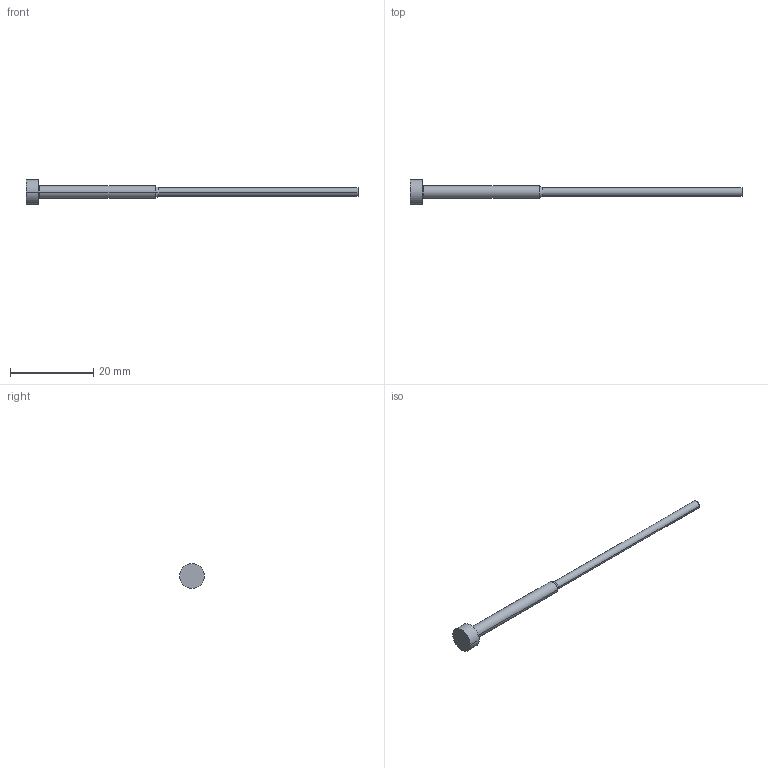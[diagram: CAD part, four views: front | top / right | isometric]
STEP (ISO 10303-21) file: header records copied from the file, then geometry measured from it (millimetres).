
FILE_DESCRIPTION (( 'STEP AP214' ), '1' );
FILE_NAME ('C-2,00x80.STEP', '2020-06-03T16:08:46', ( 'August' ), ( '' ), 'SwSTEP 2.0', 'SolidWorks 2018', '' );
FILE_SCHEMA (( 'AUTOMOTIVE_DESIGN' ));
Length unit declared in the file: millimetre
Products named in the file (1): C-2,00x80
Bounding box: 80 x 6 x 6 mm (x, y, z)
Volume: 439 mm3; surface area: 682.6 mm2
Topology: 1 solids, 1 shells, 13 faces, 24 edges, 14 vertices
Faces by surface type: cylinder 6, plane 3, torus 2, cone 2
Entity records: 360 total; most frequent: DIRECTION 68, CARTESIAN_POINT 52, ORIENTED_EDGE 48, AXIS2_PLACEMENT_3D 30, EDGE_CURVE 24, CIRCLE 16, VERTEX_POINT 14, EDGE_LOOP 14
